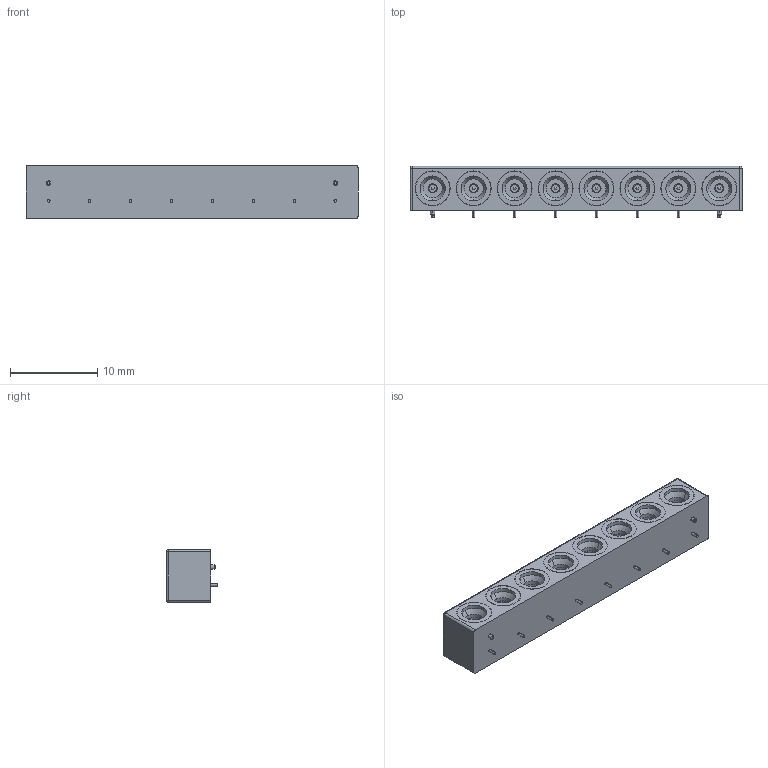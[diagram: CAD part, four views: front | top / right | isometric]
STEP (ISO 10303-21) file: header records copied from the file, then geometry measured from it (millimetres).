
FILE_DESCRIPTION (( 'STEP AP203' ), '1' );
FILE_NAME ('8869000G91P-003st4.STEP', '2016-11-04T16:52:36', ( 'klewis' ), ( '' ), 'SwSTEP 2.0', 'SolidWorks 2014', '' );
FILE_SCHEMA (( 'CONFIG_CONTROL_DESIGN' ));
Length unit declared in the file: inch
Products named in the file (1): 8869000G91P-003st4
Bounding box: 38.1 x 5.89 x 6.1 mm (x, y, z)
Volume: 1095.6 mm3; surface area: 1096.7 mm2
Topology: 1 solids, 9 shells, 601 faces, 1414 edges, 912 vertices
Faces by surface type: cylinder 195, plane 184, bspline 154, cone 68
Entity records: 26277 total; most frequent: CARTESIAN_POINT 13114, ORIENTED_EDGE 2788, DIRECTION 2439, EDGE_CURVE 1394, VERTEX_POINT 912, AXIS2_PLACEMENT_3D 896, EDGE_LOOP 702, LINE 647
